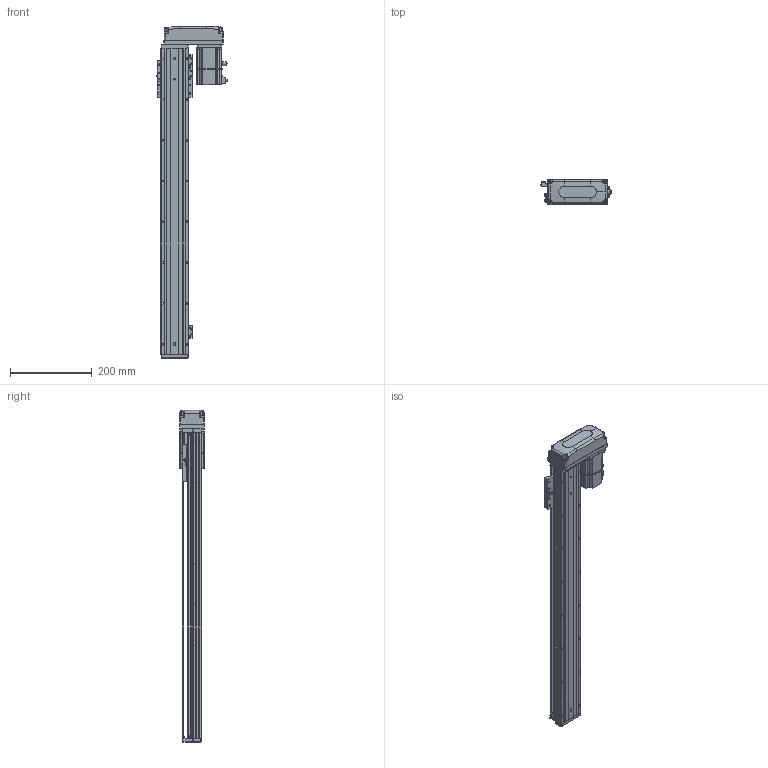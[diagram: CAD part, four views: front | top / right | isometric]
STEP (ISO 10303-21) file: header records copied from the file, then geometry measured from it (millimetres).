
FILE_DESCRIPTION (( 'STEP AP203' ), '1' );
FILE_NAME ('KTHAL60-600-BL-M20-C4L.step', '2022-12-16T02:07:07', ( '微软用户' ), ( '微软中国' ), 'SwSTEP 2.0', 'SolidWorks 2020', '' );
FILE_SCHEMA (( 'CONFIG_CONTROL_DESIGN' ));
Length unit declared in the file: millimetre
Products named in the file (17): KTHLA60-002; CTHA60-021; GTH80-026; KTHA60-004; GBT 70.1-M4×16; KTHAL60-600-BL-M20-C4L; KTHA60-005; GBT77-2000M3-3; GB¨uT 70.2-M3¡Á5_M3¡Á6; GBT 70.1-M3℅6; GBT 70.3-M3℅6; CTHA60-016; EE_SX911P_R; _X2_4E0983F1_X0_200W_1; KTHA60-001_750; CTHA60-017; CTHA60-015-4_CTHA60-015-4
Assembly tree (45 placements, depth 2):
  KTHAL60-600-BL-M20-C4L
    KTHA60-001_750
    KTHLA60-002
    KTHA60-004
    KTHA60-005
    GB¨uT 70.2-M3¡Á5_M3¡Á6  x5
    GBT 70.3-M3℅6  x4
    EE_SX911P_R  x3
    CTHA60-017  x3
    CTHA60-021  x2
    GBT 70.1-M4×16  x8
    GBT77-2000M3-3  x6
    GBT 70.1-M3℅6  x6
    CTHA60-016
    _X2_4E0983F1_X0_200W_1
    CTHA60-015-4_CTHA60-015-4
    GTH80-026
Bounding box: 172.2 x 62.42 x 814 mm (x, y, z)
Volume: 2087346.7 mm3; surface area: 452151.2 mm2
Topology: 48 solids, 48 shells, 2371 faces, 5660 edges, 3481 vertices
Faces by surface type: plane 1271, cylinder 629, cone 272, bspline 103, torus 82, sphere 14
Entity records: 46539 total; most frequent: CARTESIAN_POINT 10378, DIRECTION 7031, ORIENTED_EDGE 6944, EDGE_CURVE 3472, AXIS2_PLACEMENT_3D 2418, LINE 2195, VECTOR 2195, VERTEX_POINT 2165
